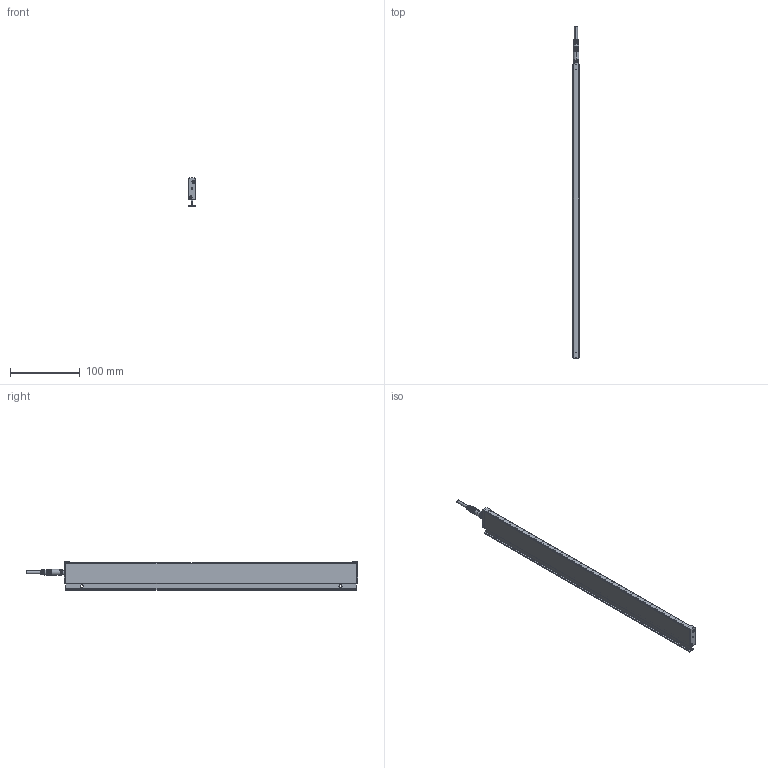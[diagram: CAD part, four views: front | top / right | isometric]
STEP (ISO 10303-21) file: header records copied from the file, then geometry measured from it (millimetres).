
FILE_DESCRIPTION (( 'STEP AP214' ), '1' );
FILE_NAME ('ILG-L-K2-0420mm.STEP', '2017-07-11T07:56:14', ( '' ), ( '' ), 'SwSTEP 2.0', 'SolidWorks 2016', '' );
FILE_SCHEMA (( 'AUTOMOTIVE_DESIGN' ));
Length unit declared in the file: millimetre
Products named in the file (1): ILG-L-K2-0420mm
Bounding box: 9 x 474.5 x 40.71 mm (x, y, z)
Surface area: 87070 mm2 (no closed solid volume)
Topology: 0 solids, 13 shells, 677 faces, 1774 edges, 1127 vertices
Faces by surface type: cylinder 284, plane 255, cone 90, bspline 32, torus 16
Entity records: 30436 total; most frequent: CARTESIAN_POINT 6465, ORIENTED_EDGE 3501, DIRECTION 3378, EDGE_CURVE 1758, AXIS2_PLACEMENT_3D 1289, VERTEX_POINT 1127, VECTOR 800, LINE 800
